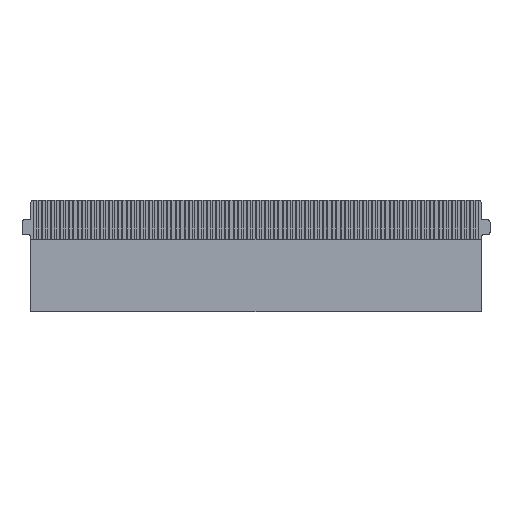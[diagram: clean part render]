
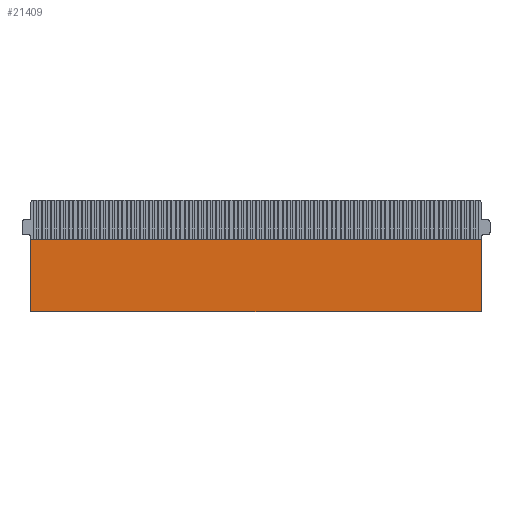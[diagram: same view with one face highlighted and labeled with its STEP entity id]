
A CAD part, top view. The second image highlights one B-rep face of the part: STEP entity #21409.
In plain terms, the highlighted planar face has unit normal (0, 0, 1).
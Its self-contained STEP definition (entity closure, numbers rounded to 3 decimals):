
#447 = LINE ( 'NONE', #30202, #15419 ) ;
#866 = CARTESIAN_POINT ( 'NONE',  ( -20.2, -3.5, 0.135 ) ) ;
#5310 = VECTOR ( 'NONE', #37820, 1000. ) ;
#5762 = EDGE_CURVE ( 'NONE', #71644, #73323, #37147, .T. ) ;
#8553 = CARTESIAN_POINT ( 'NONE',  ( -20.2, -3.5, 0.135 ) ) ;
#9908 = CARTESIAN_POINT ( 'NONE',  ( 0., 0., 0.135 ) ) ;
#12949 = AXIS2_PLACEMENT_3D ( 'NONE', #9908, #57645, #58821 ) ;
#13169 = FACE_OUTER_BOUND ( 'NONE', #25821, .T. ) ;
#13296 = VERTEX_POINT ( 'NONE', #46740 ) ;
#15419 = VECTOR ( 'NONE', #17300, 1000. ) ;
#17300 = DIRECTION ( 'NONE',  ( 1., 0., 0. ) ) ;
#17393 = CARTESIAN_POINT ( 'NONE',  ( 20.2, -10., 0.135 ) ) ;
#19979 = VECTOR ( 'NONE', #41883, 1000. ) ;
#20683 = ORIENTED_EDGE ( 'NONE', *, *, #72450, .T. ) ;
#21409 = ADVANCED_FACE ( 'NONE', ( #13169 ), #56018, .F. ) ;
#23721 = ORIENTED_EDGE ( 'NONE', *, *, #38283, .T. ) ;
#23919 = ORIENTED_EDGE ( 'NONE', *, *, #5762, .T. ) ;
#25821 = EDGE_LOOP ( 'NONE', ( #23919, #20683, #36904, #23721 ) ) ;
#26953 = VECTOR ( 'NONE', #31536, 1000. ) ;
#30202 = CARTESIAN_POINT ( 'NONE',  ( -20.2, -10., 0.135 ) ) ;
#31536 = DIRECTION ( 'NONE',  ( 0., -1., 0. ) ) ;
#36904 = ORIENTED_EDGE ( 'NONE', *, *, #64758, .T. ) ;
#37147 = LINE ( 'NONE', #49921, #26953 ) ;
#37820 = DIRECTION ( 'NONE',  ( -1., 0., 0. ) ) ;
#38283 = EDGE_CURVE ( 'NONE', #13296, #71644, #63395, .T. ) ;
#41883 = DIRECTION ( 'NONE',  ( 0., 1., 0. ) ) ;
#46740 = CARTESIAN_POINT ( 'NONE',  ( 20.2, -3.5, 0.135 ) ) ;
#49921 = CARTESIAN_POINT ( 'NONE',  ( -20.2, -10., 0.135 ) ) ;
#52774 = LINE ( 'NONE', #17393, #19979 ) ;
#56018 = PLANE ( 'NONE',  #12949 ) ;
#57645 = DIRECTION ( 'NONE',  ( 0., 0., -1. ) ) ;
#58821 = DIRECTION ( 'NONE',  ( -1., 0., 0. ) ) ;
#63395 = LINE ( 'NONE', #866, #5310 ) ;
#64758 = EDGE_CURVE ( 'NONE', #65215, #13296, #52774, .T. ) ;
#65215 = VERTEX_POINT ( 'NONE', #65271 ) ;
#65271 = CARTESIAN_POINT ( 'NONE',  ( 20.2, -10., 0.135 ) ) ;
#71644 = VERTEX_POINT ( 'NONE', #8553 ) ;
#72184 = CARTESIAN_POINT ( 'NONE',  ( -20.2, -10., 0.135 ) ) ;
#72450 = EDGE_CURVE ( 'NONE', #73323, #65215, #447, .T. ) ;
#73323 = VERTEX_POINT ( 'NONE', #72184 ) ;
